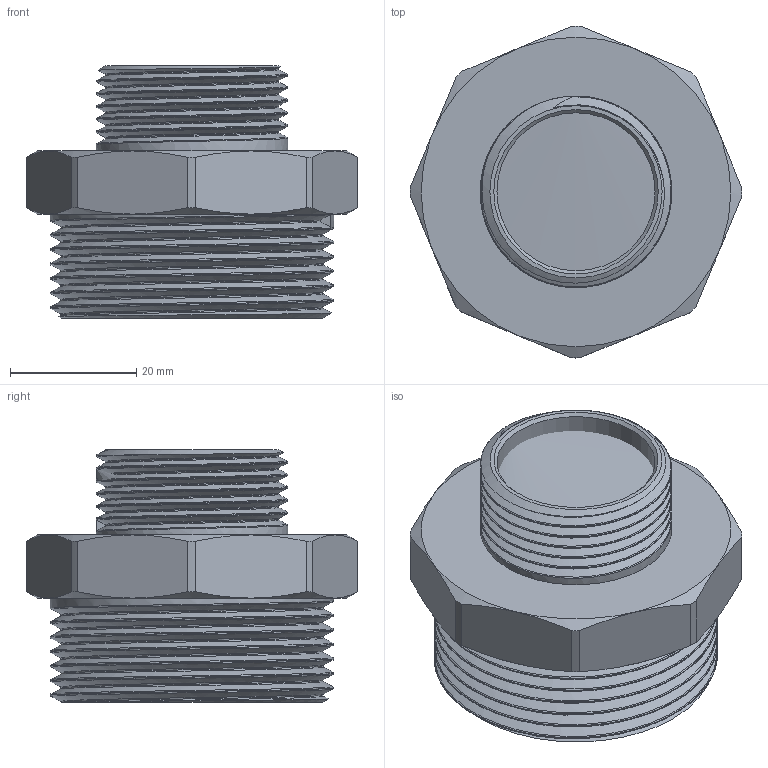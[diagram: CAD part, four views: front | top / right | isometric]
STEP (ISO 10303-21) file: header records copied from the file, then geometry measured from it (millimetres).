
FILE_DESCRIPTION(/* description */ (''),/* implementation_level */ '2;1');
FILE_NAME(/* name */ 'C:\Users\Doom\Desktop\Фадотех\Резьба\N17 18.03.2020\N17 18.03.2020.stp',/* time_stamp */ '2022-01-08T13:11:55+02:00',/* author */ ('Doom'),/* organization */ (''),/* preprocessor_version */ 'ST-DEVELOPER v18',/* originating_system */ 'Autodesk Inventor 2020',/* authorisation */ '');
FILE_SCHEMA (('AUTOMOTIVE_DESIGN { 1 0 10303 214 3 1 1 }'));
Length unit declared in the file: millimetre
Products named in the file (1): N16 17.03.2020
Bounding box: 52.5 x 52.5 x 40 mm (x, y, z)
Volume: 16536.2 mm3; surface area: 14645.3 mm2
Topology: 1 solids, 1 shells, 61 faces, 169 edges, 113 vertices
Faces by surface type: cylinder 27, plane 15, bspline 12, cone 7
Full cylindrical faces by diameter (mm): 25 x1, 30.29 x7, 40 x1, 44.85 x6
Entity records: 8617 total; most frequent: CARTESIAN_POINT 7146, ORIENTED_EDGE 338, DIRECTION 250, EDGE_CURVE 169, VERTEX_POINT 113, AXIS2_PLACEMENT_3D 101, EDGE_LOOP 66, FACE_OUTER_BOUND 61
